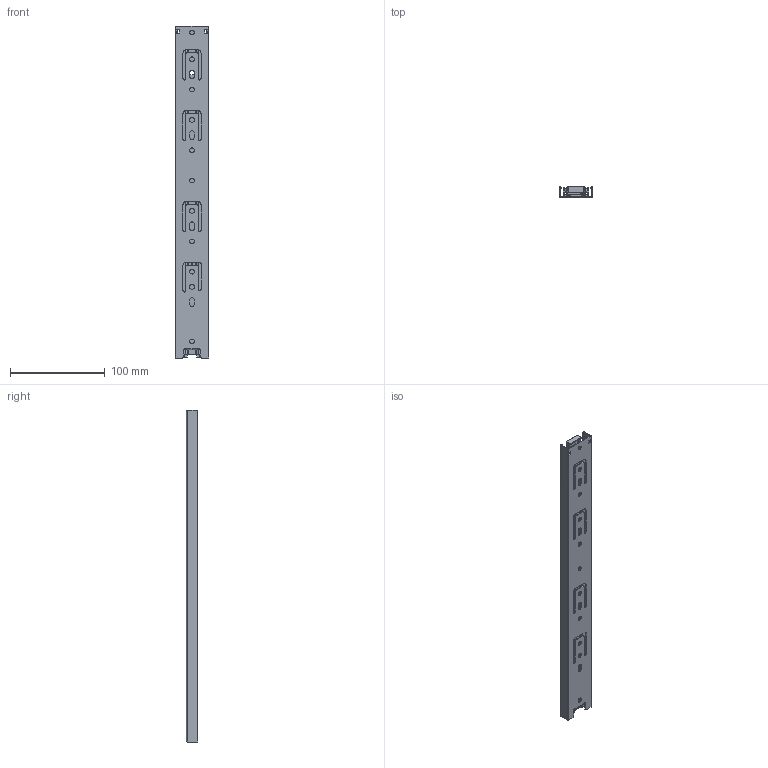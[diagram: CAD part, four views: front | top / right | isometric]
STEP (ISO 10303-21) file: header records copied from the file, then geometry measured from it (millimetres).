
FILE_DESCRIPTION(/* description */ (''),/* implementation_level */ '2;1');
FILE_NAME(/* name */ 'C:\Users\dmitruk\Documents\WORK\\X2\041D0410041F042004100412041B042F042E042904180415\X0\\Шариковые\h35 L-350 AKS LIGHT.stp',/* time_stamp */ '2020-07-27T15:04:18+03:00',/* author */ ('dmitruk'),/* organization */ (''),/* preprocessor_version */ 'ST-DEVELOPER v16.5',/* originating_system */ 'Autodesk Inventor 2017',/* authorisation */ '');
FILE_SCHEMA (('AUTOMOTIVE_DESIGN { 1 0 10303 214 3 1 1 }'));
Length unit declared in the file: millimetre
Products named in the file (5): h35 L-350 AKS LIGHT; h35 L-350 AKS_11; h35 L-350 AKS_12; h35 L-350_13; h35 L-350 AKS_2
Assembly tree (4 placements, depth 2):
  h35 L-350 AKS LIGHT
    h35 L-350 AKS_11
    h35 L-350 AKS_12
    h35 L-350_13
    h35 L-350 AKS_2
Bounding box: 35 x 12.02 x 350 mm (x, y, z)
Volume: 46419.7 mm3; surface area: 94735.2 mm2
Topology: 4 solids, 4 shells, 605 faces, 1780 edges, 1227 vertices
Faces by surface type: plane 339, cylinder 226, sphere 40
Full cylindrical faces by diameter (mm): 4.5 x4, 4.9 x10
Entity records: 20666 total; most frequent: CARTESIAN_POINT 3813, DIRECTION 3537, ORIENTED_EDGE 3440, EDGE_CURVE 1720, AXIS2_PLACEMENT_3D 1181, LINE 1175, VECTOR 1175, VERTEX_POINT 1137
